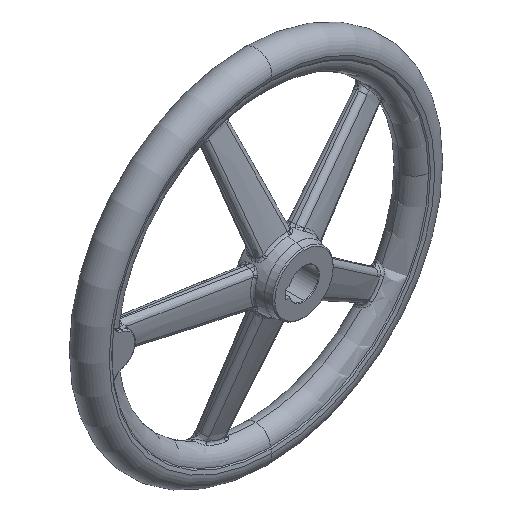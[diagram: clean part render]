
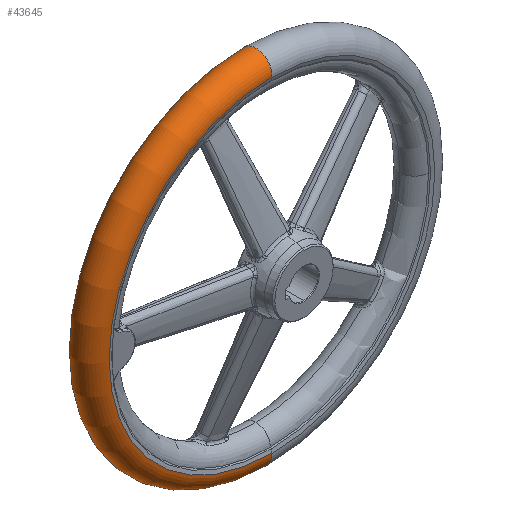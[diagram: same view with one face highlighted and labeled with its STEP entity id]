
A CAD part, isometric view. The second image highlights one B-rep face of the part: STEP entity #43645.
In plain terms, the highlighted toroidal (fillet/blend) face has major radius 143.462 mm and minor radius 14.039 mm.
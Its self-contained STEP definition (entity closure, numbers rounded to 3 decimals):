
#3814 = FACE_OUTER_BOUND ( 'NONE', #43651, .T. ) ;
#3854 = AXIS2_PLACEMENT_3D ( 'NONE', #3892, #3891, #3890 ) ;
#3858 = TOROIDAL_SURFACE ( 'NONE', #3854, 143.462, 14.038 ) ;
#3890 = DIRECTION ( 'NONE',  ( 0., 0., -1. ) ) ;
#3891 = DIRECTION ( 'NONE',  ( 0., -1., 0. ) ) ;
#3892 = CARTESIAN_POINT ( 'NONE',  ( 0., 42., 0. ) ) ;
#4120 = DIRECTION ( 'NONE',  ( 0., 0., -1. ) ) ;
#4121 = DIRECTION ( 'NONE',  ( 0., -1., 0. ) ) ;
#4122 = CARTESIAN_POINT ( 'NONE',  ( 0., 56., 0. ) ) ;
#4123 = AXIS2_PLACEMENT_3D ( 'NONE', #4122, #4121, #4120 ) ;
#4124 = CIRCLE ( 'NONE', #4123, 142.423 ) ;
#4145 = CARTESIAN_POINT ( 'NONE',  ( 0., 28., -142.423 ) ) ;
#4211 = CIRCLE ( 'NONE', #4251, 142.423 ) ;
#4214 = CARTESIAN_POINT ( 'NONE',  ( 0., 28., 142.423 ) ) ;
#4224 = AXIS2_PLACEMENT_3D ( 'NONE', #4282, #4281, #4280 ) ;
#4231 = CIRCLE ( 'NONE', #4224, 14.038 ) ;
#4233 = DIRECTION ( 'NONE',  ( 0., 0., 1. ) ) ;
#4234 = DIRECTION ( 'NONE',  ( -1., 0., 0. ) ) ;
#4235 = CARTESIAN_POINT ( 'NONE',  ( 0., 42., -143.462 ) ) ;
#4236 = AXIS2_PLACEMENT_3D ( 'NONE', #4235, #4234, #4233 ) ;
#4244 = CIRCLE ( 'NONE', #4236, 14.038 ) ;
#4248 = DIRECTION ( 'NONE',  ( 0., 0., -1. ) ) ;
#4249 = DIRECTION ( 'NONE',  ( 0., -1., 0. ) ) ;
#4250 = CARTESIAN_POINT ( 'NONE',  ( 0., 28., 0. ) ) ;
#4251 = AXIS2_PLACEMENT_3D ( 'NONE', #4250, #4249, #4248 ) ;
#4280 = DIRECTION ( 'NONE',  ( 0., 0., -1. ) ) ;
#4281 = DIRECTION ( 'NONE',  ( 1., 0., 0. ) ) ;
#4282 = CARTESIAN_POINT ( 'NONE',  ( 0., 42., 143.462 ) ) ;
#28811 = VERTEX_POINT ( 'NONE', #48531 ) ;
#28812 = VERTEX_POINT ( 'NONE', #48588 ) ;
#43642 = ORIENTED_EDGE ( 'NONE', *, *, #43783, .F. ) ;
#43643 = ORIENTED_EDGE ( 'NONE', *, *, #43728, .T. ) ;
#43645 = ADVANCED_FACE ( 'NONE', ( #3814 ), #3858, .T. ) ;
#43647 = ORIENTED_EDGE ( 'NONE', *, *, #43793, .T. ) ;
#43648 = ORIENTED_EDGE ( 'NONE', *, *, #43799, .F. ) ;
#43651 = EDGE_LOOP ( 'NONE', ( #43648, #43643, #43647, #43642 ) ) ;
#43728 = EDGE_CURVE ( 'NONE', #28812, #28811, #4124, .T. ) ;
#43749 = VERTEX_POINT ( 'NONE', #4145 ) ;
#43781 = VERTEX_POINT ( 'NONE', #4214 ) ;
#43783 = EDGE_CURVE ( 'NONE', #43781, #43749, #4211, .T. ) ;
#43793 = EDGE_CURVE ( 'NONE', #28811, #43749, #4244, .T. ) ;
#43799 = EDGE_CURVE ( 'NONE', #28812, #43781, #4231, .T. ) ;
#48531 = CARTESIAN_POINT ( 'NONE',  ( 0., 56., -142.423 ) ) ;
#48588 = CARTESIAN_POINT ( 'NONE',  ( 0., 56., 142.423 ) ) ;
